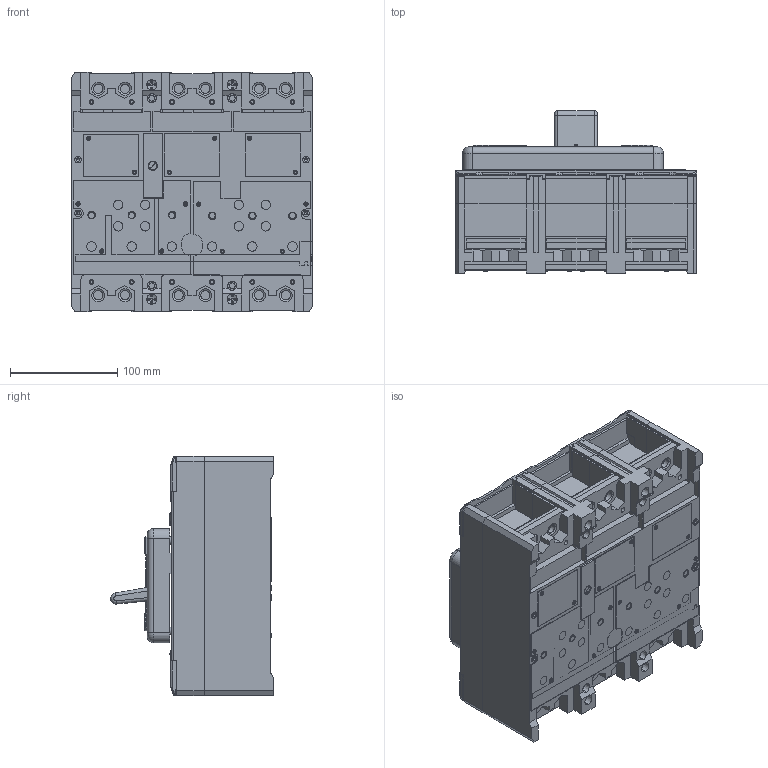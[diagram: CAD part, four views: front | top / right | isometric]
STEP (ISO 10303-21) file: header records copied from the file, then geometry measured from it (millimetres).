
FILE_DESCRIPTION (( 'STEP AP203' ), '1' );
FILE_NAME ('臍51-39.STEP', '2016-04-05T13:18:59', ( 'admin' ), ( '' ), 'SwSTEP 2.0', 'SolidWorks 2012', '' );
FILE_SCHEMA (( 'CONFIG_CONTROL_DESIGN' ));
Products named in the file (1): 臍51-39
Bounding box: 224.8 x 151.78 x 223.77 mm (x, y, z)
Volume: 3748480.1 mm3; surface area: 701617.2 mm2
Topology: 136 solids, 136 shells, 3963 faces, 9834 edges, 6240 vertices
Faces by surface type: plane 1971, cylinder 1279, cone 288, sphere 192, bspline 153, torus 80
Entity records: 122279 total; most frequent: CARTESIAN_POINT 26910, DIRECTION 20241, ORIENTED_EDGE 19364, EDGE_CURVE 9682, AXIS2_PLACEMENT_3D 7226, VERTEX_POINT 6192, LINE 5789, VECTOR 5789
